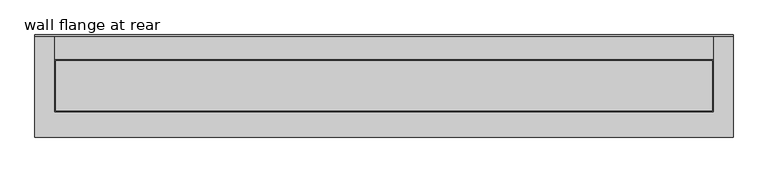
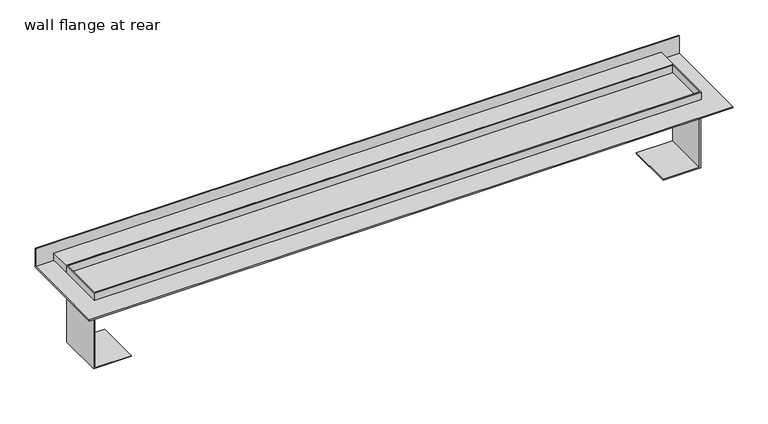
"""IFC4 building model written with IfcOpenShell, lengths in millimetres: sanitary terminal geometry, PF_UN_ShowerDrain M plus_ACO : wall flange at rear."""

from ifc_helpers import new_model, si_unit, frame, origin, origin_with_axes, place, context, project, spatial, polyline, outline, extrude, faceted_brep, source, transform, mapped, element, save


def wall_flange_at_rear_64e26d31(model_context):
    return source(origin(), model_context, "Body", "SolidModel", [
        extrude(outline(polyline([(530.0, 77.0), (530.0, -78.0), (-530.0, -78.0), (-530.0, 77.0), (530.0, 77.0)])), origin_with_axes(), (0.0, 0.0, 1.0), 2.0),
        extrude(outline(polyline([(-16.5, -498.0), (-16.5, -500.0), (-117.5, -500.0), (-117.5, -438.0), (-116.5, -438.0), (-116.5, -498.0), (-16.5, -498.0)])), frame((0.0, -38.0, 0.0), z_axis=(0.0, 1.0, 0.0), x_axis=(0.0, 0.0, 1.0)), (0.0, 0.0, 1.0), 76.0),
        extrude(outline(polyline([(-16.5, 498.0), (-116.5, 498.0), (-116.5, 438.0), (-117.5, 438.0), (-117.5, 500.0), (-16.5, 500.0), (-16.5, 498.0)])), frame((0.0, -38.0, 0.0), z_axis=(0.0, 1.0, 0.0), x_axis=(0.0, 0.0, 1.0)), (0.0, 0.0, 1.0), 76.0),
        faceted_brep([(-500.0, 75.0, 15.0), (-500.0, 40.0, 15.0), (500.0, 40.0, 15.0), (500.0, 75.0, 15.0), (500.0, 75.0, 2.0), (500.0, 40.0, 2.0), (-500.0, 40.0, 2.0), (-500.0, 75.0, 2.0), (530.0, 77.0, 33.0), (-530.0, 77.0, 33.0), (-530.0, 75.0, 33.0), (530.0, 75.0, 33.0), (530.0, 77.0, 0.0), (530.0, 75.0, 0.0), (-530.0, 75.0, 0.0), (-530.0, 77.0, 0.0)], [[[0, 1, 2, 3]], [[4, 5, 6, 7]], [[1, 0, 7, 6]], [[2, 1, 6, 5]], [[3, 2, 5, 4]], [[8, 9, 10, 11]], [[12, 13, 14, 15]], [[9, 8, 12, 15]], [[10, 9, 15, 14]], [[11, 10, 14, 13], [0, 3, 4, 7]], [[8, 11, 13, 12]]]),
        faceted_brep([(500.0, 40.0, 15.0), (-500.0, 40.0, 15.0), (-500.0, -40.0, 15.0), (500.0, -40.0, 15.0), (-498.0, -38.0, 15.0), (-498.0, 38.0, 15.0), (498.0, 38.0, 15.0), (498.0, -38.0, 15.0), (500.0, 40.0, -16.5), (500.0, -40.0, -16.5), (-500.0, -40.0, -16.5), (-500.0, 40.0, -16.5), (-498.0, 38.0, -6.0), (-498.0, -38.0, -6.0), (498.0, -38.0, -6.0), (498.0, 38.0, -6.0)], [[[0, 1, 2, 3], [4, 5, 6, 7]], [[8, 9, 10, 11]], [[1, 0, 8, 11]], [[2, 1, 11, 10]], [[3, 2, 10, 9]], [[0, 3, 9, 8]], [[12, 13, 14, 15]], [[13, 12, 5, 4]], [[14, 13, 4, 7]], [[15, 14, 7, 6]], [[12, 15, 6, 5]]]),
    ])


if __name__ == "__main__":
    model = new_model("IFC4")
    model_context = context("Model", 3, world=origin())
    ifc_project = project(units=[si_unit("LENGTHUNIT", "METRE", prefix="MILLI")], contexts=[model_context])
    site = spatial("IfcSite", under=ifc_project)
    building = spatial("IfcBuilding", under=site)
    placement = place(None, origin())
    wall_flange_at_rear_shape = wall_flange_at_rear_64e26d31(model_context)
    element("IfcSanitaryTerminal", 1, ObjectType="PF_UN_ShowerDrain M plus_ACO : wall flange at rear", at=placement, inside=building, context=model_context, shape_type="MappedRepresentation", body=[
        mapped(wall_flange_at_rear_shape, transform((0.0, 0.0, 0.0), x_axis=(1.0, 0.0, 0.0), y_axis=(0.0, 1.0, 0.0), z_axis=(0.0, 0.0, 1.0))),
    ])
    save(model, "model.ifc")
